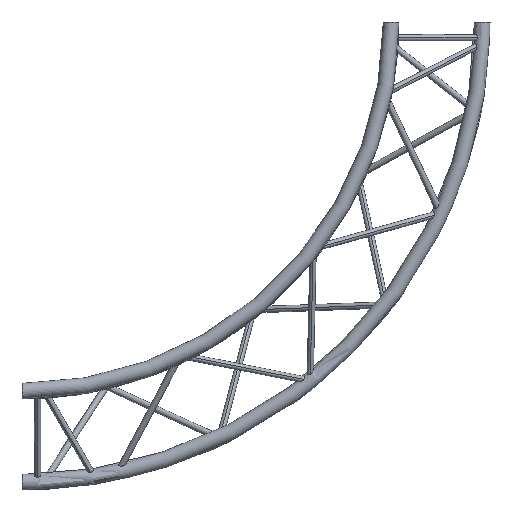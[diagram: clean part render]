
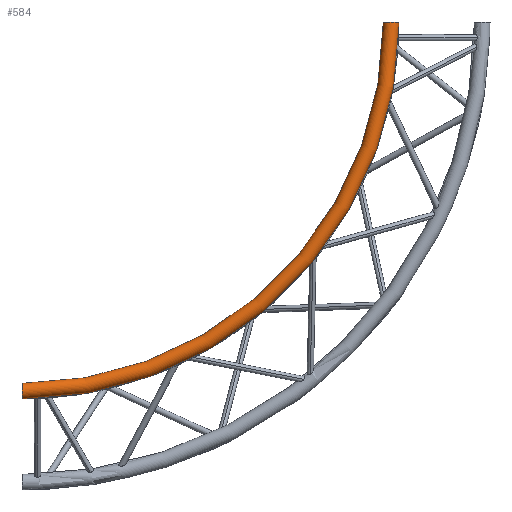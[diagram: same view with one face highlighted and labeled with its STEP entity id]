
A CAD part, front view. The second image highlights one B-rep face of the part: STEP entity #584.
In plain terms, the highlighted toroidal (fillet/blend) face has major radius 1183.15 mm and minor radius 25 mm.
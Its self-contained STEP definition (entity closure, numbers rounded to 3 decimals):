
#584 = ADVANCED_FACE ( 'NONE', ( #3759 ), #3757, .T. ) ;
#585 = ORIENTED_EDGE ( 'NONE', *, *, #609, .T. ) ;
#586 = VERTEX_POINT ( 'NONE', #3791 ) ;
#591 = ORIENTED_EDGE ( 'NONE', *, *, #592, .T. ) ;
#592 = EDGE_CURVE ( 'NONE', #595, #608, #3859, .T. ) ;
#593 = EDGE_LOOP ( 'NONE', ( #585, #591, #598, #596 ) ) ;
#594 = VERTEX_POINT ( 'NONE', #3877 ) ;
#595 = VERTEX_POINT ( 'NONE', #3876 ) ;
#596 = ORIENTED_EDGE ( 'NONE', *, *, #621, .F. ) ;
#598 = ORIENTED_EDGE ( 'NONE', *, *, #599, .F. ) ;
#599 = EDGE_CURVE ( 'NONE', #586, #608, #3874, .T. ) ;
#608 = VERTEX_POINT ( 'NONE', #3927 ) ;
#609 = EDGE_CURVE ( 'NONE', #594, #595, #3902, .T. ) ;
#621 = EDGE_CURVE ( 'NONE', #594, #586, #3995, .T. ) ;
#3756 = AXIS2_PLACEMENT_3D ( 'NONE', #3790, #3789, #3788 ) ;
#3757 = TOROIDAL_SURFACE ( 'NONE', #3756, 1183.149, 25. ) ;
#3759 = FACE_OUTER_BOUND ( 'NONE', #593, .T. ) ;
#3788 = DIRECTION ( 'NONE',  ( 0., 0., -1. ) ) ;
#3789 = DIRECTION ( 'NONE',  ( 0., -1., 0. ) ) ;
#3790 = CARTESIAN_POINT ( 'NONE',  ( 0., -168.5, 0. ) ) ;
#3791 = CARTESIAN_POINT ( 'NONE',  ( 1158.149, -168.5, 0. ) ) ;
#3859 = CIRCLE ( 'NONE', #3881, 1208.149 ) ;
#3870 = DIRECTION ( 'NONE',  ( 1., 0., 0. ) ) ;
#3871 = DIRECTION ( 'NONE',  ( 0., 0., 1. ) ) ;
#3872 = CARTESIAN_POINT ( 'NONE',  ( 1183.149, -168.5, 0. ) ) ;
#3873 = AXIS2_PLACEMENT_3D ( 'NONE', #3872, #3871, #3870 ) ;
#3874 = CIRCLE ( 'NONE', #3873, 25. ) ;
#3876 = CARTESIAN_POINT ( 'NONE',  ( 0., -168.5, -1208.149 ) ) ;
#3877 = CARTESIAN_POINT ( 'NONE',  ( 0., -168.5, -1158.149 ) ) ;
#3878 = DIRECTION ( 'NONE',  ( 0., 0., -1. ) ) ;
#3879 = DIRECTION ( 'NONE',  ( 0., -1., 0. ) ) ;
#3880 = CARTESIAN_POINT ( 'NONE',  ( 0., -168.5, 0. ) ) ;
#3881 = AXIS2_PLACEMENT_3D ( 'NONE', #3880, #3879, #3878 ) ;
#3898 = DIRECTION ( 'NONE',  ( 0., 0., -1. ) ) ;
#3899 = DIRECTION ( 'NONE',  ( 1., 0., 0. ) ) ;
#3900 = CARTESIAN_POINT ( 'NONE',  ( 0., -168.5, -1183.149 ) ) ;
#3901 = AXIS2_PLACEMENT_3D ( 'NONE', #3900, #3899, #3898 ) ;
#3902 = CIRCLE ( 'NONE', #3901, 25. ) ;
#3927 = CARTESIAN_POINT ( 'NONE',  ( 1208.149, -168.5, 0. ) ) ;
#3995 = CIRCLE ( 'NONE', #4018, 1158.149 ) ;
#4015 = DIRECTION ( 'NONE',  ( 0., 0., -1. ) ) ;
#4016 = DIRECTION ( 'NONE',  ( 0., -1., 0. ) ) ;
#4017 = CARTESIAN_POINT ( 'NONE',  ( 0., -168.5, 0. ) ) ;
#4018 = AXIS2_PLACEMENT_3D ( 'NONE', #4017, #4016, #4015 ) ;
